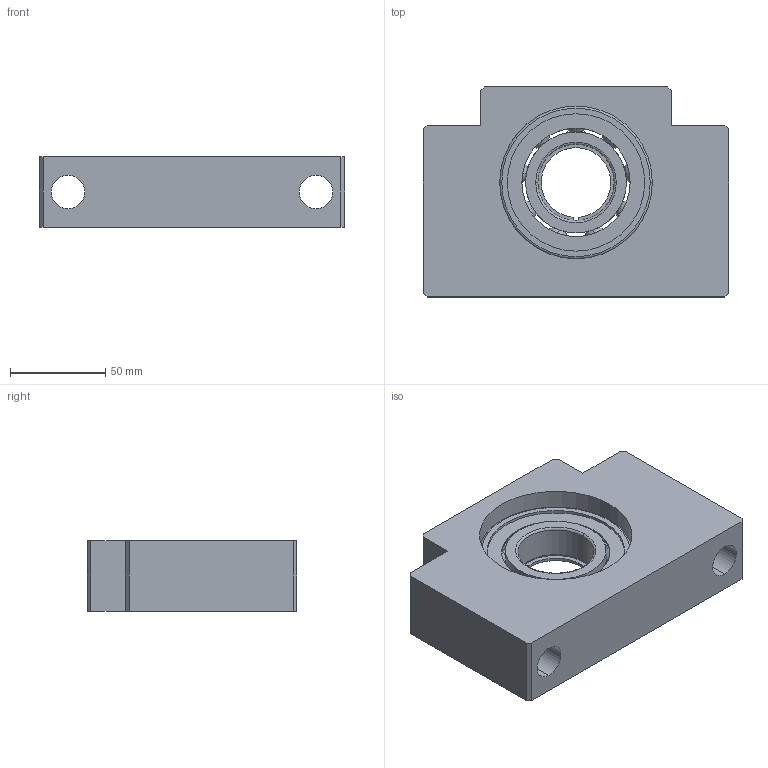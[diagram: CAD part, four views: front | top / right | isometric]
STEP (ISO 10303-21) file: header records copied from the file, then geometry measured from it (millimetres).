
FILE_DESCRIPTION (( 'STEP AP214' ), '1' );
FILE_NAME ('7.4016 BF40.STEP', '2026-03-06T07:08:27', ( '' ), ( '' ), 'SwSTEP 2.0', 'SolidWorks 2025', '' );
FILE_SCHEMA (( 'AUTOMOTIVE_DESIGN' ));
Length unit declared in the file: millimetre
Products named in the file (1): 7.4016 BF40
Bounding box: 160 x 110 x 37 mm (x, y, z)
Volume: 409246 mm3; surface area: 91525.4 mm2
Topology: 3 solids, 3 shells, 306 faces, 918 edges, 608 vertices
Faces by surface type: sphere 122, plane 77, cylinder 49, torus 41, bspline 17
Entity records: 22887 total; most frequent: CARTESIAN_POINT 12347, ORIENTED_EDGE 1828, DIRECTION 1517, EDGE_CURVE 914, AXIS2_PLACEMENT_3D 665, VERTEX_POINT 606, CIRCLE 375, B_SPLINE_CURVE_WITH_KNOTS 352
